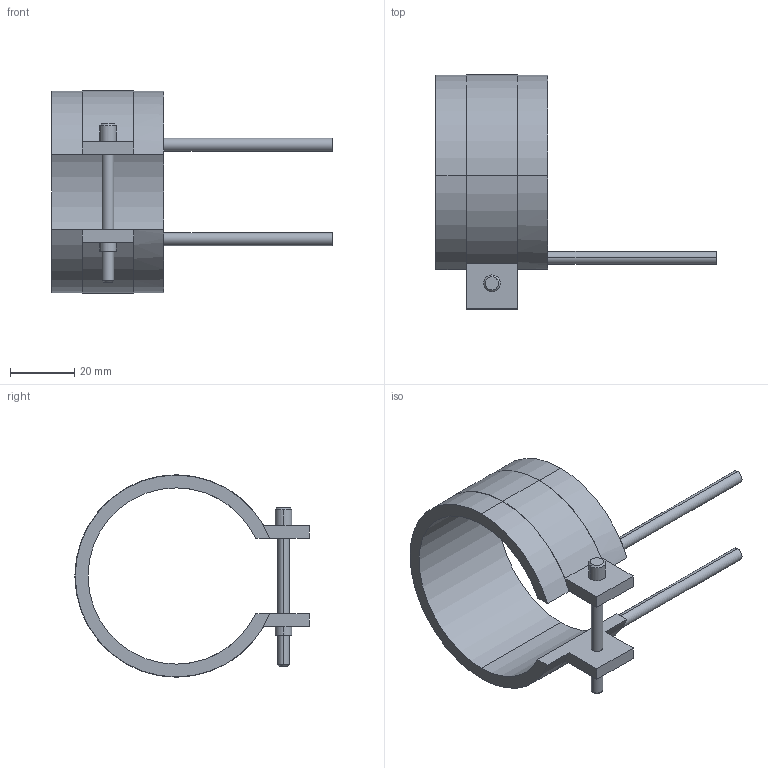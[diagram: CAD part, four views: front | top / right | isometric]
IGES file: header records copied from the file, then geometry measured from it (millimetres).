
Start section: START RECORD GO HERE.
Global section: file name: 14055035.igs; native system: DASSAULT SYSTEMES CATIA V5 R20 - www.3ds.com; preprocessor: CATIA Version 5 Release 20 ; author: Utente; organization: NB04-ASUS; date: 20210401.113510; units: millimetre
Bounding box: 87.5 x 73.1 x 63.2 mm (x, y, z)
Surface area: 15768.2 mm2 (no closed solid volume)
Topology: 0 solids, 0 shells, 45 faces, 232 edges, 232 vertices
Faces by surface type: revolution 28, plane 17
